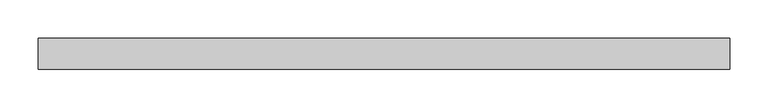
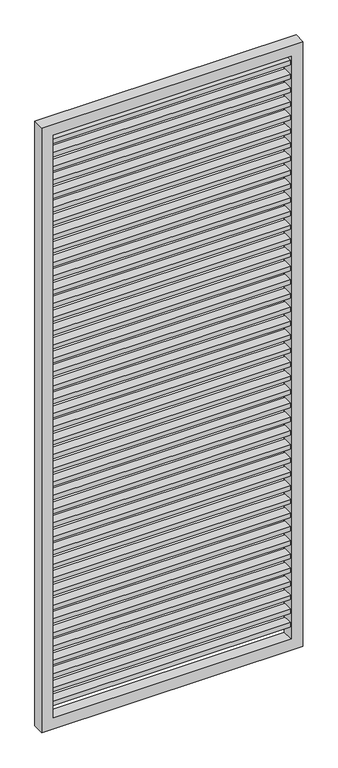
"""IFC4 building model written with IfcOpenShell, lengths in millimetres: proxy geometry, Renson_Amani_Loggia_Plano_Fix : Renson_Amani_Loggia_Plano_Fix."""

from ifc_helpers import new_model, si_unit, frame, origin, place, context, project, spatial, polyline, outline, extrude, source, transform, mapped, element, save


def generic_models_8aa5a8c0(model_context):
    return source(origin(), model_context, "Body", "SweptSolid", [
        extrude(outline(polyline([(410.0, 16.5), (410.0, -16.5), (-410.0, -16.5), (-410.0, 16.5), (410.0, 16.5)])), frame((0.0, 0.0, 2177.0), z_axis=(0.0, 0.0, 1.0), x_axis=(1.0, 0.0, 0.0)), (0.0, 0.0, 1.0), 16.0),
        extrude(outline(polyline([(410.0, 16.5), (410.0, -16.5), (-410.0, -16.5), (-410.0, 16.5), (410.0, 16.5)])), frame((0.0, 0.0, 2127.0), z_axis=(0.0, 0.0, 1.0), x_axis=(1.0, 0.0, 0.0)), (0.0, 0.0, 1.0), 16.0),
        extrude(outline(polyline([(410.0, 16.5), (410.0, -16.5), (-410.0, -16.5), (-410.0, 16.5), (410.0, 16.5)])), frame((0.0, 0.0, 2077.0), z_axis=(0.0, 0.0, 1.0), x_axis=(1.0, 0.0, 0.0)), (0.0, 0.0, 1.0), 16.0),
        extrude(outline(polyline([(410.0, 16.5), (410.0, -16.5), (-410.0, -16.5), (-410.0, 16.5), (410.0, 16.5)])), frame((0.0, 0.0, 2027.0), z_axis=(0.0, 0.0, 1.0), x_axis=(1.0, 0.0, 0.0)), (0.0, 0.0, 1.0), 16.0),
        extrude(outline(polyline([(410.0, 16.5), (410.0, -16.5), (-410.0, -16.5), (-410.0, 16.5), (410.0, 16.5)])), frame((0.0, 0.0, 1977.0), z_axis=(0.0, 0.0, 1.0), x_axis=(1.0, 0.0, 0.0)), (0.0, 0.0, 1.0), 16.0),
        extrude(outline(polyline([(410.0, 16.5), (410.0, -16.5), (-410.0, -16.5), (-410.0, 16.5), (410.0, 16.5)])), frame((0.0, 0.0, 1927.0), z_axis=(0.0, 0.0, 1.0), x_axis=(1.0, 0.0, 0.0)), (0.0, 0.0, 1.0), 16.0),
        extrude(outline(polyline([(410.0, 16.5), (410.0, -16.5), (-410.0, -16.5), (-410.0, 16.5), (410.0, 16.5)])), frame((0.0, 0.0, 1877.0), z_axis=(0.0, 0.0, 1.0), x_axis=(1.0, 0.0, 0.0)), (0.0, 0.0, 1.0), 16.0),
        extrude(outline(polyline([(410.0, 16.5), (410.0, -16.5), (-410.0, -16.5), (-410.0, 16.5), (410.0, 16.5)])), frame((0.0, 0.0, 1827.0), z_axis=(0.0, 0.0, 1.0), x_axis=(1.0, 0.0, 0.0)), (0.0, 0.0, 1.0), 16.0),
        extrude(outline(polyline([(410.0, 16.5), (410.0, -16.5), (-410.0, -16.5), (-410.0, 16.5), (410.0, 16.5)])), frame((0.0, 0.0, 1777.0), z_axis=(0.0, 0.0, 1.0), x_axis=(1.0, 0.0, 0.0)), (0.0, 0.0, 1.0), 16.0),
        extrude(outline(polyline([(410.0, 16.5), (410.0, -16.5), (-410.0, -16.5), (-410.0, 16.5), (410.0, 16.5)])), frame((0.0, 0.0, 1727.0), z_axis=(0.0, 0.0, 1.0), x_axis=(1.0, 0.0, 0.0)), (0.0, 0.0, 1.0), 16.0),
        extrude(outline(polyline([(410.0, 16.5), (410.0, -16.5), (-410.0, -16.5), (-410.0, 16.5), (410.0, 16.5)])), frame((0.0, 0.0, 1677.0), z_axis=(0.0, 0.0, 1.0), x_axis=(1.0, 0.0, 0.0)), (0.0, 0.0, 1.0), 16.0),
        extrude(outline(polyline([(410.0, 16.5), (410.0, -16.5), (-410.0, -16.5), (-410.0, 16.5), (410.0, 16.5)])), frame((0.0, 0.0, 1627.0), z_axis=(0.0, 0.0, 1.0), x_axis=(1.0, 0.0, 0.0)), (0.0, 0.0, 1.0), 16.0),
        extrude(outline(polyline([(410.0, 16.5), (410.0, -16.5), (-410.0, -16.5), (-410.0, 16.5), (410.0, 16.5)])), frame((0.0, 0.0, 1577.0), z_axis=(0.0, 0.0, 1.0), x_axis=(1.0, 0.0, 0.0)), (0.0, 0.0, 1.0), 16.0),
        extrude(outline(polyline([(410.0, 16.5), (410.0, -16.5), (-410.0, -16.5), (-410.0, 16.5), (410.0, 16.5)])), frame((0.0, 0.0, 1527.0), z_axis=(0.0, 0.0, 1.0), x_axis=(1.0, 0.0, 0.0)), (0.0, 0.0, 1.0), 16.0),
        extrude(outline(polyline([(410.0, 16.5), (410.0, -16.5), (-410.0, -16.5), (-410.0, 16.5), (410.0, 16.5)])), frame((0.0, 0.0, 1477.0), z_axis=(0.0, 0.0, 1.0), x_axis=(1.0, 0.0, 0.0)), (0.0, 0.0, 1.0), 16.0),
        extrude(outline(polyline([(410.0, 16.5), (410.0, -16.5), (-410.0, -16.5), (-410.0, 16.5), (410.0, 16.5)])), frame((0.0, 0.0, 1427.0), z_axis=(0.0, 0.0, 1.0), x_axis=(1.0, 0.0, 0.0)), (0.0, 0.0, 1.0), 16.0),
        extrude(outline(polyline([(410.0, 16.5), (410.0, -16.5), (-410.0, -16.5), (-410.0, 16.5), (410.0, 16.5)])), frame((0.0, 0.0, 1377.0), z_axis=(0.0, 0.0, 1.0), x_axis=(1.0, 0.0, 0.0)), (0.0, 0.0, 1.0), 16.0),
        extrude(outline(polyline([(410.0, 16.5), (410.0, -16.5), (-410.0, -16.5), (-410.0, 16.5), (410.0, 16.5)])), frame((0.0, 0.0, 1327.0), z_axis=(0.0, 0.0, 1.0), x_axis=(1.0, 0.0, 0.0)), (0.0, 0.0, 1.0), 16.0),
        extrude(outline(polyline([(410.0, 16.5), (410.0, -16.5), (-410.0, -16.5), (-410.0, 16.5), (410.0, 16.5)])), frame((0.0, 0.0, 1277.0), z_axis=(0.0, 0.0, 1.0), x_axis=(1.0, 0.0, 0.0)), (0.0, 0.0, 1.0), 16.0),
        extrude(outline(polyline([(410.0, 16.5), (410.0, -16.5), (-410.0, -16.5), (-410.0, 16.5), (410.0, 16.5)])), frame((0.0, 0.0, 1227.0), z_axis=(0.0, 0.0, 1.0), x_axis=(1.0, 0.0, 0.0)), (0.0, 0.0, 1.0), 16.0),
        extrude(outline(polyline([(410.0, 16.5), (410.0, -16.5), (-410.0, -16.5), (-410.0, 16.5), (410.0, 16.5)])), frame((0.0, 0.0, 1177.0), z_axis=(0.0, 0.0, 1.0), x_axis=(1.0, 0.0, 0.0)), (0.0, 0.0, 1.0), 16.0),
        extrude(outline(polyline([(410.0, 16.5), (410.0, -16.5), (-410.0, -16.5), (-410.0, 16.5), (410.0, 16.5)])), frame((0.0, 0.0, 1127.0), z_axis=(0.0, 0.0, 1.0), x_axis=(1.0, 0.0, 0.0)), (0.0, 0.0, 1.0), 16.0),
        extrude(outline(polyline([(410.0, 16.5), (410.0, -16.5), (-410.0, -16.5), (-410.0, 16.5), (410.0, 16.5)])), frame((0.0, 0.0, 1077.0), z_axis=(0.0, 0.0, 1.0), x_axis=(1.0, 0.0, 0.0)), (0.0, 0.0, 1.0), 16.0),
        extrude(outline(polyline([(410.0, 16.5), (410.0, -16.5), (-410.0, -16.5), (-410.0, 16.5), (410.0, 16.5)])), frame((0.0, 0.0, 1027.0), z_axis=(0.0, 0.0, 1.0), x_axis=(1.0, 0.0, 0.0)), (0.0, 0.0, 1.0), 16.0),
        extrude(outline(polyline([(410.0, 16.5), (410.0, -16.5), (-410.0, -16.5), (-410.0, 16.5), (410.0, 16.5)])), frame((0.0, 0.0, 977.0), z_axis=(0.0, 0.0, 1.0), x_axis=(1.0, 0.0, 0.0)), (0.0, 0.0, 1.0), 16.0),
        extrude(outline(polyline([(410.0, 16.5), (410.0, -16.5), (-410.0, -16.5), (-410.0, 16.5), (410.0, 16.5)])), frame((0.0, 0.0, 927.0), z_axis=(0.0, 0.0, 1.0), x_axis=(1.0, 0.0, 0.0)), (0.0, 0.0, 1.0), 16.0),
        extrude(outline(polyline([(410.0, 16.5), (410.0, -16.5), (-410.0, -16.5), (-410.0, 16.5), (410.0, 16.5)])), frame((0.0, 0.0, 877.0), z_axis=(0.0, 0.0, 1.0), x_axis=(1.0, 0.0, 0.0)), (0.0, 0.0, 1.0), 16.0),
        extrude(outline(polyline([(410.0, 16.5), (410.0, -16.5), (-410.0, -16.5), (-410.0, 16.5), (410.0, 16.5)])), frame((0.0, 0.0, 827.0), z_axis=(0.0, 0.0, 1.0), x_axis=(1.0, 0.0, 0.0)), (0.0, 0.0, 1.0), 16.0),
        extrude(outline(polyline([(410.0, 16.5), (410.0, -16.5), (-410.0, -16.5), (-410.0, 16.5), (410.0, 16.5)])), frame((0.0, 0.0, 777.0), z_axis=(0.0, 0.0, 1.0), x_axis=(1.0, 0.0, 0.0)), (0.0, 0.0, 1.0), 16.0),
        extrude(outline(polyline([(410.0, 16.5), (410.0, -16.5), (-410.0, -16.5), (-410.0, 16.5), (410.0, 16.5)])), frame((0.0, 0.0, 727.0), z_axis=(0.0, 0.0, 1.0), x_axis=(1.0, 0.0, 0.0)), (0.0, 0.0, 1.0), 16.0),
        extrude(outline(polyline([(410.0, 16.5), (410.0, -16.5), (-410.0, -16.5), (-410.0, 16.5), (410.0, 16.5)])), frame((0.0, 0.0, 677.0), z_axis=(0.0, 0.0, 1.0), x_axis=(1.0, 0.0, 0.0)), (0.0, 0.0, 1.0), 16.0),
        extrude(outline(polyline([(410.0, 16.5), (410.0, -16.5), (-410.0, -16.5), (-410.0, 16.5), (410.0, 16.5)])), frame((0.0, 0.0, 627.0), z_axis=(0.0, 0.0, 1.0), x_axis=(1.0, 0.0, 0.0)), (0.0, 0.0, 1.0), 16.0),
        extrude(outline(polyline([(410.0, 16.5), (410.0, -16.5), (-410.0, -16.5), (-410.0, 16.5), (410.0, 16.5)])), frame((0.0, 0.0, 577.0), z_axis=(0.0, 0.0, 1.0), x_axis=(1.0, 0.0, 0.0)), (0.0, 0.0, 1.0), 16.0),
        extrude(outline(polyline([(410.0, 16.5), (410.0, -16.5), (-410.0, -16.5), (-410.0, 16.5), (410.0, 16.5)])), frame((0.0, 0.0, 527.0), z_axis=(0.0, 0.0, 1.0), x_axis=(1.0, 0.0, 0.0)), (0.0, 0.0, 1.0), 16.0),
        extrude(outline(polyline([(410.0, 16.5), (410.0, -16.5), (-410.0, -16.5), (-410.0, 16.5), (410.0, 16.5)])), frame((0.0, 0.0, 477.0), z_axis=(0.0, 0.0, 1.0), x_axis=(1.0, 0.0, 0.0)), (0.0, 0.0, 1.0), 16.0),
        extrude(outline(polyline([(410.0, 16.5), (410.0, -16.5), (-410.0, -16.5), (-410.0, 16.5), (410.0, 16.5)])), frame((0.0, 0.0, 427.0), z_axis=(0.0, 0.0, 1.0), x_axis=(1.0, 0.0, 0.0)), (0.0, 0.0, 1.0), 16.0),
        extrude(outline(polyline([(410.0, 16.5), (410.0, -16.5), (-410.0, -16.5), (-410.0, 16.5), (410.0, 16.5)])), frame((0.0, 0.0, 377.0), z_axis=(0.0, 0.0, 1.0), x_axis=(1.0, 0.0, 0.0)), (0.0, 0.0, 1.0), 16.0),
        extrude(outline(polyline([(410.0, 16.5), (410.0, -16.5), (-410.0, -16.5), (-410.0, 16.5), (410.0, 16.5)])), frame((0.0, 0.0, 327.0), z_axis=(0.0, 0.0, 1.0), x_axis=(1.0, 0.0, 0.0)), (0.0, 0.0, 1.0), 16.0),
        extrude(outline(polyline([(410.0, 16.5), (410.0, -16.5), (-410.0, -16.5), (-410.0, 16.5), (410.0, 16.5)])), frame((0.0, 0.0, 277.0), z_axis=(0.0, 0.0, 1.0), x_axis=(1.0, 0.0, 0.0)), (0.0, 0.0, 1.0), 16.0),
        extrude(outline(polyline([(410.0, 16.5), (410.0, -16.5), (-410.0, -16.5), (-410.0, 16.5), (410.0, 16.5)])), frame((0.0, 0.0, 227.0), z_axis=(0.0, 0.0, 1.0), x_axis=(1.0, 0.0, 0.0)), (0.0, 0.0, 1.0), 16.0),
        extrude(outline(polyline([(410.0, 16.5), (410.0, -16.5), (-410.0, -16.5), (-410.0, 16.5), (410.0, 16.5)])), frame((0.0, 0.0, 177.0), z_axis=(0.0, 0.0, 1.0), x_axis=(1.0, 0.0, 0.0)), (0.0, 0.0, 1.0), 16.0),
        extrude(outline(polyline([(410.0, 16.5), (410.0, -16.5), (-410.0, -16.5), (-410.0, 16.5), (410.0, 16.5)])), frame((0.0, 0.0, 127.0), z_axis=(0.0, 0.0, 1.0), x_axis=(1.0, 0.0, 0.0)), (0.0, 0.0, 1.0), 16.0),
        extrude(outline(polyline([(2250.0, -450.0), (45.0, -450.0), (45.0, 450.0), (2250.0, 450.0), (2250.0, -450.0)]), holes=[polyline([(2210.0, 410.0), (85.0, 410.0), (85.0, -410.0), (2210.0, -410.0), (2210.0, 410.0)])]), frame((0.0, -20.0, 0.0), z_axis=(0.0, 1.0, 0.0), x_axis=(0.0, 0.0, 1.0)), (0.0, 0.0, 1.0), 40.0),
    ])


if __name__ == "__main__":
    model = new_model("IFC4")
    model_context = context("Model", 3, world=origin())
    ifc_project = project(units=[si_unit("LENGTHUNIT", "METRE", prefix="MILLI")], contexts=[model_context])
    site = spatial("IfcSite", under=ifc_project)
    building = spatial("IfcBuilding", under=site)
    placement = place(None, origin())
    generic_models_shape = generic_models_8aa5a8c0(model_context)
    element("IfcBuildingElementProxy", 1, Name="Renson_Amani_Loggia_Plano_Fix : Renson_Amani_Loggia_Plano_Fix", ObjectType="Renson_Amani_Loggia_Plano_Fix : Renson_Amani_Loggia_Plano_Fix", at=placement, inside=building, context=model_context, shape_type="MappedRepresentation", body=[
        mapped(generic_models_shape, transform((0.0, 0.0, 0.0), x_axis=(1.0, 0.0, 0.0), y_axis=(0.0, 1.0, 0.0), z_axis=(0.0, 0.0, 1.0))),
    ])
    save(model, "model.ifc")
